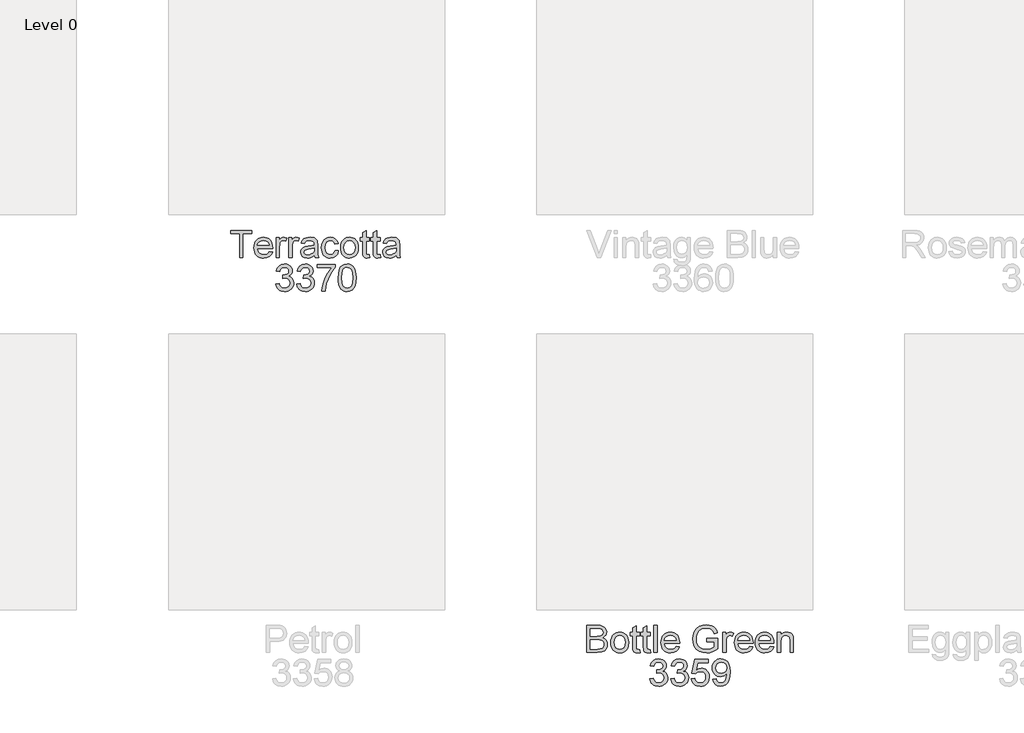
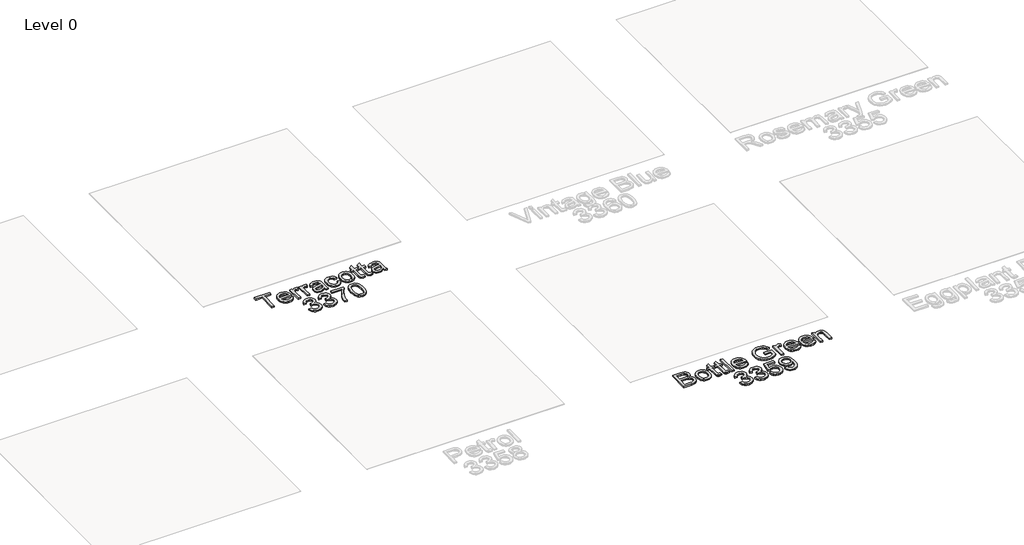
# One storey, part 3 of 6: 2 proxies.
"""IFC4 building model written with IfcOpenShell, lengths in millimetres."""

from ifc_helpers import new_model, si_unit, origin, origin_with_axes, place, context, project, spatial, polyline, outline, extrude, element, save

model = new_model("IFC4")

# Units and contexts
model_context = context("Model", 3, world=origin())
ifc_project = project(units=[si_unit("LENGTHUNIT", "METRE", prefix="MILLI")], contexts=[model_context])

# Site, building, storey
site = spatial("IfcSite", under=ifc_project)
building = spatial("IfcBuilding", under=site)
storey = spatial("IfcBuildingStorey", under=building, Name="Level 0", Elevation=0.0)

# Proxies
placement = place(None, origin())
element("IfcBuildingElementProxy", 1, Name="300mm Arial", ObjectType="300mm Arial", at=placement, inside=storey, context=model_context, shape_type="SweptSolid", body=[
    extrude(outline(polyline([(-680.806034, -2137.1730179), (-680.806034, -1878.7114794), (-777.729111, -1878.7114794), (-777.729111, -1841.7884025), (-546.9598802, -1841.7884025), (-546.9598802, -1878.7114794), (-643.8829571, -1878.7114794), (-643.8829571, -2137.1730179), (-680.806034, -2137.1730179)])), origin_with_axes(), (0.0, 0.0, 1.0), 20.0),
    extrude(outline(polyline([(-358.1618033, -2072.5576332), (-321.9598802, -2077.1730179), (-335.0037504, -2104.4506621), (-355.8180533, -2124.8412871), (-383.9340389, -2137.5516236), (-418.8829571, -2141.7884025), (-441.7931134, -2139.9607282), (-462.2062744, -2134.4777054), (-480.1224403, -2125.339334), (-495.541611, -2112.545614), (-507.9409499, -2096.4526152), (-516.7976206, -2077.4164073), (-522.111623, -2055.4369902), (-523.8829571, -2030.514364), (-522.0935941, -2004.7466356), (-516.7255052, -1982.0347967), (-507.7786903, -1962.3788472), (-495.2531494, -1945.7787871), (-479.8745437, -1932.5906861), (-462.368534, -1923.170614), (-442.7351206, -1917.5185707), (-420.9743033, -1915.6345563), (-399.9143574, -1917.5140635), (-380.869135, -1923.1525852), (-363.8386362, -1932.5501212), (-348.822861, -1945.7066717), (-336.5654992, -1962.2706741), (-327.8102408, -1981.8905659), (-322.5570857, -2004.5663472), (-320.806034, -2030.2980179), (-321.0223802, -2040.2499409), (-486.9598802, -2040.2499409), (-480.5686542, -2067.8881621), (-465.7218994, -2088.2066717), (-444.2946158, -2100.7006621), (-418.1618033, -2104.8653255), (-398.510361, -2102.936239), (-381.9598802, -2097.1489794), (-368.510361, -2087.1429698), (-358.1618033, -2072.5576332)]), holes=[polyline([(-486.9598802, -2003.326864), (-357.729111, -2003.326864), (-362.7231014, -1983.8196525), (-372.5127648, -1969.8653255), (-394.0392071, -1956.8845563), (-421.118534, -1952.5576332), (-446.0073562, -1956.0101573), (-466.587284, -1966.3677294), (-480.8931735, -1982.5125611), (-486.9598802, -2003.326864)])]), origin_with_axes(), (0.0, 0.0, 1.0), 20.0),
    extrude(outline(polyline([(-283.8829571, -2137.1730179), (-283.8829571, -1920.2499409), (-251.5752648, -1920.2499409), (-251.5752648, -1952.3412871), (-239.6401687, -1933.7355179), (-228.6425725, -1922.7739794), (-217.6089187, -1917.4194121), (-205.5656494, -1915.6345563), (-187.1762264, -1918.483114), (-168.4983417, -1927.0287871), (-180.8300725, -1960.1297486), (-193.8108417, -1954.4506621), (-206.791611, -1952.5576332), (-217.8162504, -1954.3785467), (-227.6690148, -1959.8412871), (-235.6287504, -1968.5311909), (-240.9743033, -1980.0335948), (-245.463486, -2000.6585948), (-246.9598802, -2023.1585948), (-246.9598802, -2137.1730179), (-283.8829571, -2137.1730179)])), origin_with_axes(), (0.0, 0.0, 1.0), 20.0),
    extrude(outline(polyline([(-145.4214187, -2137.1730179), (-145.4214187, -1920.2499409), (-113.1137264, -1920.2499409), (-113.1137264, -1952.3412871), (-101.1786302, -1933.7355179), (-90.181034, -1922.7739794), (-79.1473802, -1917.4194121), (-67.104111, -1915.6345563), (-48.7146879, -1918.483114), (-30.0368033, -1927.0287871), (-42.368534, -1960.1297486), (-55.3493033, -1954.4506621), (-68.3300725, -1952.5576332), (-79.3547119, -1954.3785467), (-89.2074764, -1959.8412871), (-97.1672119, -1968.5311909), (-102.5127648, -1980.0335948), (-107.0019475, -2000.6585948), (-108.4983417, -2023.1585948), (-108.4983417, -2137.1730179), (-145.4214187, -2137.1730179)])), origin_with_axes(), (0.0, 0.0, 1.0), 20.0),
    extrude(outline(polyline([(131.5016583, -2109.4807102), (113.8604323, -2124.6069121), (95.6963698, -2134.5047486), (76.5948073, -2139.967489), (56.1410813, -2141.7884025), (25.2847111, -2137.4073929), (2.5232929, -2124.264364), (-11.5121639, -2104.3064313), (-16.1906494, -2079.4807102), (-14.4238225, -2064.1742198), (-9.1233417, -2050.2739794), (-0.94726, -2038.3749409), (9.4463698, -2029.0720563), (35.2997352, -2016.9566717), (67.2468506, -2011.4037871), (104.9992544, -2005.5624409), (131.2853121, -1998.7114794), (131.5016583, -1990.4903255), (128.959591, -1974.0119602), (121.333389, -1963.2307102), (104.2781006, -1955.2259025), (80.5160813, -1952.5576332), (58.520889, -1954.3334746), (43.1603121, -1959.6609986), (32.6855525, -1969.513763), (25.3478121, -1984.8653255), (-11.5752648, -1980.2499409), (-5.16601, -1960.0576332), (4.3982929, -1944.1922486), (18.0100717, -1932.0588352), (36.5617544, -1923.0624409), (59.2510573, -1917.4915275), (85.2756967, -1915.6345563), (110.2366342, -1917.2751813), (130.0232929, -1922.1970563), (144.9421631, -1929.5978977), (155.2997352, -1938.6754217), (162.1687256, -1949.8983784), (166.6218506, -1963.7355179), (168.4247352, -1996.0432102), (168.4247352, -2041.9807102), (170.2997352, -2106.1273448), (177.6555044, -2137.1730179), (140.7324275, -2137.1730179), (131.5016583, -2109.4807102)]), holes=[polyline([(131.5016583, -2035.6345563), (71.9343506, -2046.9566717), (40.1675236, -2052.9422486), (25.7805044, -2062.6778255), (20.7324275, -2076.8845563), (23.4818265, -2087.8641236), (31.7300236, -2096.8605179), (45.2967304, -2102.8641236), (64.0016583, -2104.8653255), (83.833389, -2102.6567919), (101.3574275, -2096.0311909), (115.5641583, -2086.2685707), (125.443966, -2074.6489794), (129.8249756, -2062.6778255), (131.2853121, -2046.0912871), (131.5016583, -2035.6345563)])]), origin_with_axes(), (0.0, 0.0, 1.0), 20.0),
    extrude(outline(polyline([(357.6555044, -2058.7114794), (394.5785813, -2063.326864), (384.2841102, -2096.1664073), (364.9391583, -2120.983114), (338.364639, -2136.5870804), (306.381466, -2141.7884025), (285.6730825, -2139.9742498), (267.1056246, -2134.5317919), (250.6790922, -2125.4610287), (236.3934852, -2112.7619602), (224.830234, -2096.6734686), (216.5707688, -2077.4344361), (211.6150898, -2055.0448628), (209.9631967, -2029.5047486), (212.7847111, -1996.6471765), (221.2492544, -1968.170614), (235.4920429, -1945.1748207), (255.6482929, -1928.7595563), (279.7618746, -1918.9158063), (305.8766583, -1915.6345563), (337.0755765, -1920.1417679), (362.0184852, -1933.6634025), (379.912115, -1955.4783063), (389.9631967, -1984.8653255), (353.0401198, -1989.4807102), (346.3424035, -1973.3719361), (335.912716, -1961.8244602), (322.3279804, -1954.87434), (306.1651198, -1952.5576332), (282.3039419, -1957.1189313), (263.364639, -1970.8028255), (251.005865, -1994.3484986), (246.8862736, -2028.4951332), (250.9157208, -2063.1015034), (263.0040621, -2086.7283063), (281.6008169, -2100.3310707), (305.1555044, -2104.8653255), (324.2750958, -2102.0347967), (339.9511775, -2093.5432102), (351.3544227, -2079.1742198), (357.6555044, -2058.7114794)])), origin_with_axes(), (0.0, 0.0, 1.0), 20.0),
    extrude(outline(polyline([(417.6555044, -2028.7114794), (419.6521991, -2000.6180299), (425.6422833, -1976.4097967), (435.6257568, -1956.0867799), (449.6026198, -1939.6489794), (463.6741342, -1929.1426693), (479.2059852, -1921.6381621), (496.1981727, -1917.1354578), (514.6506967, -1915.6345563), (535.0210393, -1917.4622306), (553.4397592, -1922.9452534), (569.9068566, -1932.0836248), (584.4223313, -1944.8773448), (596.2695369, -1960.893721), (604.7318265, -1979.7000611), (609.8092003, -2001.2963652), (611.5016583, -2025.6826332), (608.5088698, -2062.9843159), (599.5305044, -2091.3797486), (584.8279804, -2112.6447727), (564.662716, -2128.5552294), (540.7113938, -2138.4801092), (514.6506967, -2141.7884025), (493.9828782, -2139.967489), (475.3928842, -2134.5047486), (458.8807148, -2125.4001813), (444.4463698, -2112.6537871), (432.7253662, -2096.4819121), (424.3532208, -2077.1009025), (419.3299335, -2054.5107582), (417.6555044, -2028.7114794)]), holes=[polyline([(454.5785813, -2028.639364), (458.8514179, -2062.0558304), (471.6699275, -2085.8629217), (490.9607929, -2100.1147246), (514.6506967, -2104.8653255), (538.2324275, -2100.0876813), (557.4872352, -2085.7547486), (570.3057448, -2061.6321525), (574.5785813, -2027.4855179), (570.2787015, -1995.0426092), (557.3790621, -1971.5600371), (538.0972111, -1957.3082342), (514.6506967, -1952.5576332), (490.9607929, -1957.2902054), (471.6699275, -1971.4879217), (458.8514179, -1995.2409265), (454.5785813, -2028.639364)])]), origin_with_axes(), (0.0, 0.0, 1.0), 20.0),
    extrude(outline(polyline([(731.5016583, -2106.3797486), (736.1170429, -2138.2547486), (708.4968506, -2141.7884025), (690.7744948, -2140.2559505), (677.5593506, -2135.6585948), (668.2204083, -2128.5732582), (662.1266583, -2119.576864), (658.7732929, -2104.1261429), (657.6555044, -2077.6778255), (657.6555044, -1957.1730179), (629.9631967, -1957.1730179), (629.9631967, -1920.2499409), (657.6555044, -1920.2499409), (657.6555044, -1867.5335948), (694.5785813, -1845.826864), (694.5785813, -1920.2499409), (731.5016583, -1920.2499409), (731.5016583, -1957.1730179), (694.5785813, -1957.1730179), (694.5785813, -2076.5960948), (696.5256967, -2095.6345563), (702.8357929, -2102.3773448), (715.4199275, -2104.8653255), (731.5016583, -2106.3797486)])), origin_with_axes(), (0.0, 0.0, 1.0), 20.0),
    extrude(outline(polyline([(846.8862736, -2106.3797486), (851.5016583, -2138.2547486), (823.881466, -2141.7884025), (806.1591102, -2140.2559505), (792.943966, -2135.6585948), (783.6050236, -2128.5732582), (777.5112736, -2119.576864), (774.1579083, -2104.1261429), (773.0401198, -2077.6778255), (773.0401198, -1957.1730179), (745.3478121, -1957.1730179), (745.3478121, -1920.2499409), (773.0401198, -1920.2499409), (773.0401198, -1867.5335948), (809.9631967, -1845.826864), (809.9631967, -1920.2499409), (846.8862736, -1920.2499409), (846.8862736, -1957.1730179), (809.9631967, -1957.1730179), (809.9631967, -2076.5960948), (811.9103121, -2095.6345563), (818.2204083, -2102.3773448), (830.8045429, -2104.8653255), (846.8862736, -2106.3797486)])), origin_with_axes(), (0.0, 0.0, 1.0), 20.0),
    extrude(outline(polyline([(1022.270889, -2109.4807102), (1004.6296631, -2124.6069121), (986.4656006, -2134.5047486), (967.3640381, -2139.967489), (946.9103121, -2141.7884025), (916.0539419, -2137.4073929), (893.2925236, -2124.264364), (879.2570669, -2104.3064313), (874.5785813, -2079.4807102), (876.3454083, -2064.1742198), (881.645889, -2050.2739794), (889.8219708, -2038.3749409), (900.2156006, -2029.0720563), (926.068966, -2016.9566717), (958.0160813, -2011.4037871), (995.7684852, -2005.5624409), (1022.0545429, -1998.7114794), (1022.270889, -1990.4903255), (1019.7288217, -1974.0119602), (1012.1026198, -1963.2307102), (995.0473313, -1955.2259025), (971.2853121, -1952.5576332), (949.2901198, -1954.3334746), (933.9295429, -1959.6609986), (923.4547833, -1969.513763), (916.1170429, -1984.8653255), (879.193966, -1980.2499409), (885.6032208, -1960.0576332), (895.1675236, -1944.1922486), (908.7793025, -1932.0588352), (927.3309852, -1923.0624409), (950.0202881, -1917.4915275), (976.0449275, -1915.6345563), (1001.005865, -1917.2751813), (1020.7925236, -1922.1970563), (1035.7113938, -1929.5978977), (1046.068966, -1938.6754217), (1052.9379563, -1949.8983784), (1057.3910813, -1963.7355179), (1059.193966, -1996.0432102), (1059.193966, -2041.9807102), (1061.068966, -2106.1273448), (1068.4247352, -2137.1730179), (1031.5016583, -2137.1730179), (1022.270889, -2109.4807102)]), holes=[polyline([(1022.270889, -2035.6345563), (962.7035813, -2046.9566717), (930.9367544, -2052.9422486), (916.5497352, -2062.6778255), (911.5016583, -2076.8845563), (914.2510573, -2087.8641236), (922.4992544, -2096.8605179), (936.0659611, -2102.8641236), (954.770889, -2104.8653255), (974.6026198, -2102.6567919), (992.1266583, -2096.0311909), (1006.333389, -2086.2685707), (1016.2131967, -2074.6489794), (1020.5942063, -2062.6778255), (1022.0545429, -2046.0912871), (1022.270889, -2035.6345563)])]), origin_with_axes(), (0.0, 0.0, 1.0), 20.0),
    extrude(outline(polyline([(-286.1906494, -2423.326864), (-249.2675725, -2418.7114794), (-241.0013465, -2441.9146044), (-228.8949764, -2457.5816717), (-212.35351, -2466.5059505), (-190.7819956, -2469.4807102), (-165.4694956, -2465.3881621), (-145.9262264, -2453.1105179), (-133.432236, -2434.7932102), (-129.2675725, -2412.5816717), (-133.3961783, -2391.4969361), (-145.7819956, -2374.3965755), (-164.5319956, -2363.0654457), (-187.7531494, -2359.2884025), (-213.6425725, -2363.326864), (-209.5319956, -2326.4037871), (-203.618534, -2326.8364794), (-181.4971398, -2324.186239), (-161.7194956, -2316.2355179), (-147.7651687, -2302.7859986), (-143.1137264, -2283.639364), (-146.4851206, -2267.6928496), (-156.5993033, -2254.7571525), (-172.0319956, -2246.1844361), (-191.3589187, -2243.326864), (-210.7218994, -2246.2114794), (-226.5512264, -2254.8653255), (-238.1077167, -2269.2884025), (-244.6521879, -2289.4807102), (-281.5752648, -2284.8653255), (-270.7038706, -2251.7102775), (-251.3589187, -2226.9566717), (-224.8925725, -2211.5420082), (-192.6569956, -2206.4037871), (-169.4448562, -2208.93684), (-148.1257456, -2216.5359986), (-130.150986, -2228.5251813), (-116.9718994, -2244.2283063), (-108.8859619, -2262.3202534), (-106.1906494, -2281.4759025), (-108.7507456, -2299.3244602), (-116.431034, -2315.514364), (-129.1233417, -2329.3064313), (-146.7194956, -2339.9614794), (-123.6065148, -2349.3004217), (-106.479111, -2365.201864), (-95.8781494, -2386.8004217), (-92.3444956, -2413.2307102), (-94.1113225, -2431.9626813), (-99.4118033, -2449.2162871), (-108.2459379, -2464.9915275), (-120.6137264, -2479.2884025), (-135.6813345, -2491.1513832), (-152.6149283, -2499.6249409), (-171.4145076, -2504.7090755), (-192.0800725, -2506.4037871), (-227.7771879, -2500.6165275), (-243.1377648, -2493.3824529), (-256.8396879, -2483.2547486), (-268.3285701, -2470.8283664), (-277.0500244, -2456.6982582), (-286.1906494, -2423.326864)])), origin_with_axes(), (0.0, 0.0, 1.0), 20.0),
    extrude(outline(polyline([(-60.0368033, -2423.326864), (-23.1137264, -2418.7114794), (-14.8475004, -2441.9146044), (-2.7411302, -2457.5816717), (13.8003361, -2466.5059505), (35.3718506, -2469.4807102), (60.6843506, -2465.3881621), (80.2276198, -2453.1105179), (92.7216102, -2434.7932102), (96.8862736, -2412.5816717), (92.7576679, -2391.4969361), (80.3718506, -2374.3965755), (61.6218506, -2363.0654457), (38.4006967, -2359.2884025), (12.5112736, -2363.326864), (16.6218506, -2326.4037871), (22.5353121, -2326.8364794), (44.6567063, -2324.186239), (64.4343506, -2316.2355179), (78.3886775, -2302.7859986), (83.0401198, -2283.639364), (79.6687256, -2267.6928496), (69.5545429, -2254.7571525), (54.1218506, -2246.1844361), (34.7949275, -2243.326864), (15.4319467, -2246.2114794), (-0.3973802, -2254.8653255), (-11.9538706, -2269.2884025), (-18.4983417, -2289.4807102), (-55.4214187, -2284.8653255), (-44.5500244, -2251.7102775), (-25.2050725, -2226.9566717), (1.2612736, -2211.5420082), (33.4968506, -2206.4037871), (56.70899, -2208.93684), (78.0281006, -2216.5359986), (96.0028602, -2228.5251813), (109.1819467, -2244.2283063), (117.2678842, -2262.3202534), (119.9631967, -2281.4759025), (117.4031006, -2299.3244602), (109.7228121, -2315.514364), (97.0305044, -2329.3064313), (79.4343506, -2339.9614794), (102.5473313, -2349.3004217), (119.6747352, -2365.201864), (130.2756967, -2386.8004217), (133.8093506, -2413.2307102), (132.0425236, -2431.9626813), (126.7420429, -2449.2162871), (117.9079083, -2464.9915275), (105.5401198, -2479.2884025), (90.4725116, -2491.1513832), (73.5389179, -2499.6249409), (54.7393386, -2504.7090755), (34.0737736, -2506.4037871), (-1.6233417, -2500.6165275), (-16.9839187, -2493.3824529), (-30.6858417, -2483.2547486), (-42.1747239, -2470.8283664), (-50.8961783, -2456.6982582), (-60.0368033, -2423.326864)])), origin_with_axes(), (0.0, 0.0, 1.0), 20.0),
    extrude(outline(polyline([(166.1170429, -2247.9422486), (166.1170429, -2211.0191717), (359.9631967, -2211.0191717), (359.9631967, -2240.8749409), (332.33399, -2275.841888), (304.975216, -2320.3100371), (280.8436054, -2370.2228977), (262.895889, -2421.5239794), (254.0978121, -2459.9073929), (249.193966, -2501.7884025), (212.270889, -2501.7884025), (216.2642785, -2463.7295082), (226.9463698, -2418.4951332), (244.0287015, -2370.5474169), (267.2228121, -2324.3484986), (294.302139, -2282.5846765), (323.0401198, -2247.9422486), (166.1170429, -2247.9422486)])), origin_with_axes(), (0.0, 0.0, 1.0), 20.0),
    extrude(outline(polyline([(392.270889, -2356.4759025), (394.9842304, -2309.1952534), (403.1242544, -2271.4879217), (416.6098313, -2242.7769842), (435.3598313, -2222.4855179), (459.5094708, -2210.4242198), (489.193966, -2206.4037871), (511.9463698, -2208.7835948), (532.318966, -2215.9230179), (549.3562256, -2227.5426092), (562.1026198, -2243.3629217), (571.7300236, -2263.248739), (579.4103121, -2287.0648448), (584.4403602, -2317.3082342), (586.1170429, -2356.4759025), (583.4307448, -2403.4861188), (575.3718506, -2441.1033063), (561.9674035, -2469.8412871), (543.2444467, -2490.2138832), (519.0407208, -2502.3563111), (489.193966, -2506.4037871), (468.8574275, -2504.6459746), (450.8285813, -2499.3725371), (435.1074275, -2490.5834746), (421.693966, -2478.2787871), (408.8213698, -2456.0356981), (399.6266583, -2428.3208544), (394.1098313, -2395.1342558), (392.270889, -2356.4759025)]), holes=[polyline([(429.193966, -2356.4037871), (433.520889, -2414.483715), (438.9295429, -2434.3492498), (446.5016583, -2448.0984986), (465.8285813, -2464.1351573), (489.193966, -2469.4807102), (512.5593506, -2464.1171284), (531.8862736, -2448.0263832), (539.458389, -2434.2545984), (544.8670429, -2414.3935707), (549.193966, -2356.4037871), (545.0112736, -2299.6309505), (539.7829083, -2279.8307703), (532.4631967, -2265.7547486), (513.1723313, -2248.9338352), (488.7612736, -2243.326864), (465.6482929, -2248.2667679), (447.0785813, -2263.0864794), (439.2540621, -2278.4109986), (433.6651198, -2299.0720563), (429.193966, -2356.4037871)])]), origin_with_axes(), (0.0, 0.0, 1.0), 20.0),
])
element("IfcBuildingElementProxy", 2, Name="300mm Arial", ObjectType="300mm Arial", at=placement, inside=storey, context=model_context, shape_type="SweptSolid", body=[
    extrude(outline(polyline([(3095.2206244, -6431.0059242), (3095.2206244, -6135.6213089), (3207.9369706, -6135.6213089), (3238.9375715, -6137.7937848), (3263.1412975, -6144.3112127), (3281.6929802, -6155.3358521), (3295.7374513, -6171.0299627), (3304.5806004, -6189.4915012), (3307.5283167, -6208.8184242), (3305.0493504, -6226.603881), (3297.6124513, -6243.3256358), (3285.1635331, -6257.9560444), (3267.648509, -6269.4674627), (3288.570985, -6280.3929435), (3304.0307206, -6297.0155396), (3313.5769946, -6318.2354916), (3316.7590859, -6342.9530396), (3314.58661, -6363.5509964), (3308.0691821, -6382.6525589), (3298.3426196, -6398.8965492), (3286.5427398, -6410.9217896), (3272.0926196, -6419.6297223), (3254.4153359, -6425.9217896), (3207.0715859, -6431.0059242), (3095.2206244, -6431.0059242)]), holes=[polyline([(3132.1437013, -6394.0828473), (3207.8648552, -6394.0828473), (3235.2687013, -6392.6405396), (3258.4537975, -6384.5996742), (3273.8143744, -6368.1934242), (3278.3306004, -6356.6008762), (3279.836009, -6343.3136166), (3278.0691821, -6327.8809242), (3272.7687013, -6314.6116935), (3263.5108888, -6304.2360925), (3249.8720667, -6297.4842896), (3230.5541581, -6293.7793617), (3204.2590859, -6292.5443858), (3132.1437013, -6292.5443858), (3132.1437013, -6394.0828473)]), polyline([(3132.1437013, -6255.6213089), (3199.5715859, -6255.6213089), (3238.9465859, -6252.4482319), (3252.7296388, -6246.9764771), (3262.6364898, -6238.7823666), (3268.6130523, -6227.9921021), (3270.6052398, -6214.7318858), (3268.7482686, -6201.8592896), (3263.1773552, -6190.6453473), (3254.1449032, -6181.8923425), (3241.9033167, -6176.4025589), (3194.4513936, -6172.5443858), (3132.1437013, -6172.5443858), (3132.1437013, -6255.6213089)])]), origin_with_axes(), (0.0, 0.0, 1.0), 20.0),
    extrude(outline(polyline([(3353.6821629, -6322.5443858), (3355.6788576, -6294.4509363), (3361.6689417, -6270.2427031), (3371.6524153, -6249.9196863), (3385.6292782, -6233.4818858), (3399.7007927, -6222.9755757), (3415.2326436, -6215.4710685), (3432.2248311, -6210.9683642), (3450.6773552, -6209.4674627), (3471.0476977, -6211.295137), (3489.4664177, -6216.7781598), (3505.933515, -6225.9165312), (3520.4489898, -6238.7102512), (3532.2961953, -6254.7266274), (3540.758485, -6273.5329675), (3545.8358588, -6295.1292716), (3547.5283167, -6319.5155396), (3544.5355282, -6356.8172223), (3535.5571629, -6385.212655), (3520.8546388, -6406.4776791), (3500.6893744, -6422.3881358), (3476.7380523, -6432.3130156), (3450.6773552, -6435.6213089), (3430.0095367, -6433.8003954), (3411.4195427, -6428.337655), (3394.9073732, -6419.2330877), (3380.4730282, -6406.4866935), (3368.7520246, -6390.3148185), (3360.3798792, -6370.9338089), (3355.3565919, -6348.3436646), (3353.6821629, -6322.5443858)]), holes=[polyline([(3390.6052398, -6322.4722704), (3394.8780763, -6355.8887367), (3407.6965859, -6379.6958281), (3426.9874513, -6393.947631), (3450.6773552, -6398.6982319), (3474.2590859, -6393.9205877), (3493.5138936, -6379.587655), (3506.3324032, -6355.4650589), (3510.6052398, -6321.3184242), (3506.30536, -6288.8755156), (3493.4057206, -6265.3929435), (3474.1238696, -6251.1411406), (3450.6773552, -6246.3905396), (3426.9874513, -6251.1231117), (3407.6965859, -6265.3208281), (3394.8780763, -6289.0738329), (3390.6052398, -6322.4722704)])]), origin_with_axes(), (0.0, 0.0, 1.0), 20.0),
    extrude(outline(polyline([(3667.5283167, -6400.212655), (3672.1437013, -6432.087655), (3644.523509, -6435.6213089), (3626.8011532, -6434.0888569), (3613.586009, -6429.4915012), (3604.2470667, -6422.4061646), (3598.1533167, -6413.4097704), (3594.7999513, -6397.9590492), (3593.6821629, -6371.5107319), (3593.6821629, -6251.0059242), (3565.9898552, -6251.0059242), (3565.9898552, -6214.0828473), (3593.6821629, -6214.0828473), (3593.6821629, -6161.3665012), (3630.6052398, -6139.6597704), (3630.6052398, -6214.0828473), (3667.5283167, -6214.0828473), (3667.5283167, -6251.0059242), (3630.6052398, -6251.0059242), (3630.6052398, -6370.4290012), (3632.5523552, -6389.4674627), (3638.8624513, -6396.2102512), (3651.4465859, -6398.6982319), (3667.5283167, -6400.212655)])), origin_with_axes(), (0.0, 0.0, 1.0), 20.0),
    extrude(outline(polyline([(3782.9129321, -6400.212655), (3787.5283167, -6432.087655), (3759.9081244, -6435.6213089), (3742.1857686, -6434.0888569), (3728.9706244, -6429.4915012), (3719.6316821, -6422.4061646), (3713.5379321, -6413.4097704), (3710.1845667, -6397.9590492), (3709.0667782, -6371.5107319), (3709.0667782, -6251.0059242), (3681.3744706, -6251.0059242), (3681.3744706, -6214.0828473), (3709.0667782, -6214.0828473), (3709.0667782, -6161.3665012), (3745.9898552, -6139.6597704), (3745.9898552, -6214.0828473), (3782.9129321, -6214.0828473), (3782.9129321, -6251.0059242), (3745.9898552, -6251.0059242), (3745.9898552, -6370.4290012), (3747.9369706, -6389.4674627), (3754.2470667, -6396.2102512), (3766.8312013, -6398.6982319), (3782.9129321, -6400.212655)])), origin_with_axes(), (0.0, 0.0, 1.0), 20.0),
    extrude(outline(polyline([(3819.836009, -6431.0059242), (3819.836009, -6135.6213089), (3856.7590859, -6135.6213089), (3856.7590859, -6431.0059242), (3819.836009, -6431.0059242)])), origin_with_axes(), (0.0, 0.0, 1.0), 20.0),
    extrude(outline(polyline([(4064.0187013, -6366.3905396), (4100.2206244, -6371.0059242), (4087.1767542, -6398.2835685), (4066.3624513, -6418.6741935), (4038.2464657, -6431.38453), (4003.2975475, -6435.6213089), (3980.3873912, -6433.7936346), (3959.9742302, -6428.3106117), (3942.0580643, -6419.1722404), (3926.6388936, -6406.3785204), (3914.2395547, -6390.2855216), (3905.382884, -6371.2493137), (3900.0688816, -6349.2698966), (3898.2975475, -6324.3472704), (3900.0869105, -6298.579542), (3905.4549994, -6275.8677031), (3914.4018143, -6256.2117536), (3926.9273552, -6239.6116935), (3942.3059609, -6226.4235925), (3959.8119706, -6217.0035204), (3979.445384, -6211.3514771), (4001.2062013, -6209.4674627), (4022.2661472, -6211.3469699), (4041.3113696, -6216.9854916), (4058.3418684, -6226.3830276), (4073.3576436, -6239.5395781), (4085.6150054, -6256.1035805), (4094.3702638, -6275.7234723), (4099.6234189, -6298.3992536), (4101.3744706, -6324.1309242), (4101.1581244, -6334.0828473), (3935.2206244, -6334.0828473), (3941.6118504, -6361.7210685), (3956.4586052, -6382.0395781), (3977.8858888, -6394.5335685), (4004.0187013, -6398.6982319), (4023.6701436, -6396.7691454), (4040.2206244, -6390.9818858), (4053.6701436, -6380.9758762), (4064.0187013, -6366.3905396)]), holes=[polyline([(3935.2206244, -6297.1597704), (4064.4513936, -6297.1597704), (4059.4574032, -6277.6525589), (4049.6677398, -6263.6982319), (4028.1412975, -6250.7174627), (4001.0619706, -6246.3905396), (3976.1731484, -6249.8430637), (3955.5932206, -6260.2006358), (3941.2873311, -6276.3454675), (3935.2206244, -6297.1597704)])]), origin_with_axes(), (0.0, 0.0, 1.0), 20.0),
    extrude(outline(polyline([(4396.7590859, -6315.6213089), (4396.7590859, -6278.6982319), (4516.7590859, -6278.6982319), (4516.7590859, -6389.1068858), (4487.5974273, -6409.3893377), (4457.5162975, -6423.9386166), (4426.5878119, -6432.7006358), (4394.8840859, -6435.6213089), (4353.4628119, -6430.978881), (4316.0259129, -6417.0515973), (4284.9261532, -6394.3262367), (4262.5162975, -6363.2895781), (4248.9676196, -6326.0600108), (4244.4513936, -6284.7559242), (4248.9495907, -6243.1543617), (4262.4441821, -6204.4554435), (4284.3762734, -6171.994506), (4314.1869706, -6149.1068858), (4350.4970667, -6135.5311646), (4391.9273552, -6131.0059242), (4422.3420186, -6133.6291214), (4449.6917782, -6141.4987127), (4472.7236292, -6154.0467896), (4490.1845667, -6170.7054435), (4503.102235, -6192.2769579), (4512.5042782, -6219.5636166), (4478.4658167, -6229.1549627), (4470.8666581, -6209.6928233), (4461.6268744, -6195.0083281), (4449.4033167, -6183.9386166), (4432.8528359, -6175.3208281), (4413.1202638, -6169.7769579), (4391.3504321, -6167.9290012), (4365.8666581, -6169.9211887), (4344.0787975, -6175.8977512), (4326.0679802, -6185.1104916), (4311.9153359, -6196.8112127), (4292.9129321, -6225.2607319), (4284.2590859, -6253.1333281), (4281.3744706, -6283.2415012), (4284.8450234, -6318.5509964), (4295.2566821, -6347.6044819), (4312.2939417, -6370.1946262), (4335.6412975, -6386.1140973), (4362.9640138, -6395.5521983), (4391.9273552, -6398.6982319), (4417.5012734, -6396.3274387), (4442.4441821, -6389.2150589), (4464.1058407, -6379.416381), (4479.836009, -6368.9866935), (4479.836009, -6315.6213089), (4396.7590859, -6315.6213089)])), origin_with_axes(), (0.0, 0.0, 1.0), 20.0),
    extrude(outline(polyline([(4572.1437013, -6431.0059242), (4572.1437013, -6214.0828473), (4604.4513936, -6214.0828473), (4604.4513936, -6246.1741935), (4616.3864898, -6227.5684242), (4627.3840859, -6216.6068858), (4638.4177398, -6211.2523185), (4650.461009, -6209.4674627), (4668.8504321, -6212.3160204), (4687.5283167, -6220.8616935), (4675.1965859, -6253.962655), (4662.2158167, -6248.2835685), (4649.2350475, -6246.3905396), (4638.2104081, -6248.2114531), (4628.3576436, -6253.6741935), (4620.3979081, -6262.3640973), (4615.0523552, -6273.8665012), (4610.5631725, -6294.4915012), (4609.0667782, -6316.9915012), (4609.0667782, -6431.0059242), (4572.1437013, -6431.0059242)])), origin_with_axes(), (0.0, 0.0, 1.0), 20.0),
    extrude(outline(polyline([(4862.4802398, -6366.3905396), (4898.6821629, -6371.0059242), (4885.6382927, -6398.2835685), (4864.8239898, -6418.6741935), (4836.7080042, -6431.38453), (4801.7590859, -6435.6213089), (4778.8489297, -6433.7936346), (4758.4357686, -6428.3106117), (4740.5196028, -6419.1722404), (4725.1004321, -6406.3785204), (4712.7010932, -6390.2855216), (4703.8444225, -6371.2493137), (4698.5304201, -6349.2698966), (4696.7590859, -6324.3472704), (4698.5484489, -6298.579542), (4703.9165379, -6275.8677031), (4712.8633528, -6256.2117536), (4725.3888936, -6239.6116935), (4740.7674994, -6226.4235925), (4758.273509, -6217.0035204), (4777.9069225, -6211.3514771), (4799.6677398, -6209.4674627), (4820.7276857, -6211.3469699), (4839.7729081, -6216.9854916), (4856.8034069, -6226.3830276), (4871.8191821, -6239.5395781), (4884.0765439, -6256.1035805), (4892.8318023, -6275.7234723), (4898.0849573, -6298.3992536), (4899.836009, -6324.1309242), (4899.6196629, -6334.0828473), (4733.6821629, -6334.0828473), (4740.0733888, -6361.7210685), (4754.9201436, -6382.0395781), (4776.3474273, -6394.5335685), (4802.4802398, -6398.6982319), (4822.1316821, -6396.7691454), (4838.6821629, -6390.9818858), (4852.1316821, -6380.9758762), (4862.4802398, -6366.3905396)]), holes=[polyline([(4733.6821629, -6297.1597704), (4862.9129321, -6297.1597704), (4857.9189417, -6277.6525589), (4848.1292782, -6263.6982319), (4826.6028359, -6250.7174627), (4799.523509, -6246.3905396), (4774.6346869, -6249.8430637), (4754.054759, -6260.2006358), (4739.7488696, -6276.3454675), (4733.6821629, -6297.1597704)])]), origin_with_axes(), (0.0, 0.0, 1.0), 20.0),
    extrude(outline(polyline([(5088.6340859, -6366.3905396), (5124.836009, -6371.0059242), (5111.7921388, -6398.2835685), (5090.9778359, -6418.6741935), (5062.8618504, -6431.38453), (5027.9129321, -6435.6213089), (5005.0027758, -6433.7936346), (4984.5896148, -6428.3106117), (4966.6734489, -6419.1722404), (4951.2542782, -6406.3785204), (4938.8549393, -6390.2855216), (4929.9982686, -6371.2493137), (4924.6842662, -6349.2698966), (4922.9129321, -6324.3472704), (4924.7022951, -6298.579542), (4930.070384, -6275.8677031), (4939.0171989, -6256.2117536), (4951.5427398, -6239.6116935), (4966.9213456, -6226.4235925), (4984.4273552, -6217.0035204), (5004.0607686, -6211.3514771), (5025.8215859, -6209.4674627), (5046.8815319, -6211.3469699), (5065.9267542, -6216.9854916), (5082.957253, -6226.3830276), (5097.9730282, -6239.5395781), (5110.23039, -6256.1035805), (5118.9856484, -6275.7234723), (5124.2388035, -6298.3992536), (5125.9898552, -6324.1309242), (5125.773509, -6334.0828473), (4959.836009, -6334.0828473), (4966.227235, -6361.7210685), (4981.0739898, -6382.0395781), (5002.5012734, -6394.5335685), (5028.6340859, -6398.6982319), (5048.2855282, -6396.7691454), (5064.836009, -6390.9818858), (5078.2855282, -6380.9758762), (5088.6340859, -6366.3905396)]), holes=[polyline([(4959.836009, -6297.1597704), (5089.0667782, -6297.1597704), (5084.0727879, -6277.6525589), (5074.2831244, -6263.6982319), (5052.7566821, -6250.7174627), (5025.6773552, -6246.3905396), (5000.7885331, -6249.8430637), (4980.2086052, -6260.2006358), (4965.9027157, -6276.3454675), (4959.836009, -6297.1597704)])]), origin_with_axes(), (0.0, 0.0, 1.0), 20.0),
    extrude(outline(polyline([(5162.9129321, -6431.0059242), (5162.9129321, -6214.0828473), (5199.836009, -6214.0828473), (5199.836009, -6244.3713089), (5212.6635331, -6229.1008762), (5228.0691821, -6218.1934242), (5246.0529561, -6211.6489531), (5266.6148552, -6209.4674627), (5284.8149754, -6211.2252752), (5301.4826436, -6216.4987127), (5315.382884, -6224.6297223), (5325.2807206, -6234.9602512), (5336.3504321, -6262.1116935), (5338.2975475, -6297.8088089), (5338.2975475, -6431.0059242), (5301.3744706, -6431.0059242), (5301.3744706, -6302.7847704), (5297.1196629, -6270.1165012), (5291.2332446, -6260.3899387), (5282.0836052, -6252.8448666), (5270.3558407, -6248.0041214), (5256.7350475, -6246.3905396), (5235.1094465, -6250.0143377), (5216.6749513, -6260.8857319), (5209.3079141, -6269.7604315), (5204.0457446, -6281.8893377), (5199.836009, -6315.9097704), (5199.836009, -6431.0059242), (5162.9129321, -6431.0059242)])), origin_with_axes(), (0.0, 0.0, 1.0), 20.0),
    extrude(outline(polyline([(3778.2975475, -6717.1597704), (3815.2206244, -6712.5443858), (3823.4868504, -6735.7475108), (3835.5932206, -6751.4145781), (3852.1346869, -6760.3388569), (3873.7062013, -6763.3136166), (3899.0187013, -6759.2210685), (3918.5619706, -6746.9434242), (3931.0559609, -6728.6261166), (3935.2206244, -6706.4145781), (3931.0920186, -6685.3298425), (3918.7062013, -6668.2294819), (3899.9562013, -6656.8983521), (3876.7350475, -6653.1213089), (3850.8456244, -6657.1597704), (3854.9562013, -6620.2366935), (3860.8696629, -6620.6693858), (3882.9910571, -6618.0191454), (3902.7687013, -6610.0684242), (3916.7230282, -6596.618905), (3921.3744706, -6577.4722704), (3918.0030763, -6561.525756), (3907.8888936, -6548.5900589), (3892.4562013, -6540.0173425), (3873.1292782, -6537.1597704), (3853.7662975, -6540.0443858), (3837.9369706, -6548.6982319), (3826.3804802, -6563.1213089), (3819.836009, -6583.3136166), (3782.9129321, -6578.6982319), (3793.7843263, -6545.5431839), (3813.1292782, -6520.7895781), (3839.5956244, -6505.3749146), (3871.8312013, -6500.2366935), (3895.0433407, -6502.7697464), (3916.3624513, -6510.368905), (3934.3372109, -6522.3580877), (3947.5162975, -6538.0612127), (3955.602235, -6556.1531598), (3958.2975475, -6575.3088089), (3955.7374513, -6593.1573666), (3948.0571629, -6609.3472704), (3935.3648552, -6623.1393377), (3917.7687013, -6633.7943858), (3940.8816821, -6643.1333281), (3958.0090859, -6659.0347704), (3968.6100475, -6680.6333281), (3972.1437013, -6707.0636166), (3970.3768744, -6725.7955877), (3965.0763936, -6743.0491935), (3956.242259, -6758.8244339), (3943.8744706, -6773.1213089), (3928.8068624, -6784.9842896), (3911.8732686, -6793.4578473), (3893.0736893, -6798.5419819), (3872.4081244, -6800.2366935), (3836.711009, -6794.4494339), (3821.3504321, -6787.2153593), (3807.648509, -6777.087655), (3796.1596268, -6764.6612728), (3787.4381725, -6750.5311646), (3778.2975475, -6717.1597704)])), origin_with_axes(), (0.0, 0.0, 1.0), 20.0),
    extrude(outline(polyline([(4004.4513936, -6717.1597704), (4041.3744706, -6712.5443858), (4049.6406965, -6735.7475108), (4061.7470667, -6751.4145781), (4078.2885331, -6760.3388569), (4099.8600475, -6763.3136166), (4125.1725475, -6759.2210685), (4144.7158167, -6746.9434242), (4157.2098071, -6728.6261166), (4161.3744706, -6706.4145781), (4157.2458648, -6685.3298425), (4144.8600475, -6668.2294819), (4126.1100475, -6656.8983521), (4102.8888936, -6653.1213089), (4076.9994706, -6657.1597704), (4081.1100475, -6620.2366935), (4087.023509, -6620.6693858), (4109.1449032, -6618.0191454), (4128.9225475, -6610.0684242), (4142.8768744, -6596.618905), (4147.5283167, -6577.4722704), (4144.1569225, -6561.525756), (4134.0427398, -6548.5900589), (4118.6100475, -6540.0173425), (4099.2831244, -6537.1597704), (4079.9201436, -6540.0443858), (4064.0908167, -6548.6982319), (4052.5343263, -6563.1213089), (4045.9898552, -6583.3136166), (4009.0667782, -6578.6982319), (4019.9381725, -6545.5431839), (4039.2831244, -6520.7895781), (4065.7494706, -6505.3749146), (4097.9850475, -6500.2366935), (4121.1971869, -6502.7697464), (4142.5162975, -6510.368905), (4160.4910571, -6522.3580877), (4173.6701436, -6538.0612127), (4181.7560811, -6556.1531598), (4184.4513936, -6575.3088089), (4181.8912975, -6593.1573666), (4174.211009, -6609.3472704), (4161.5187013, -6623.1393377), (4143.9225475, -6633.7943858), (4167.0355282, -6643.1333281), (4184.1629321, -6659.0347704), (4194.7638936, -6680.6333281), (4198.2975475, -6707.0636166), (4196.5307206, -6725.7955877), (4191.2302398, -6743.0491935), (4182.3961052, -6758.8244339), (4170.0283167, -6773.1213089), (4154.9607085, -6784.9842896), (4138.0271148, -6793.4578473), (4119.2275355, -6798.5419819), (4098.5619706, -6800.2366935), (4062.8648552, -6794.4494339), (4047.5042782, -6787.2153593), (4033.8023552, -6777.087655), (4022.313473, -6764.6612728), (4013.5920186, -6750.5311646), (4004.4513936, -6717.1597704)])), origin_with_axes(), (0.0, 0.0, 1.0), 20.0),
    extrude(outline(polyline([(4230.6052398, -6717.1597704), (4267.5283167, -6712.5443858), (4274.3071629, -6734.7108521), (4286.1340859, -6750.5852512), (4302.9549994, -6760.1315252), (4324.7158167, -6763.3136166), (4351.1821629, -6758.8875348), (4371.0138936, -6745.6092896), (4383.3997109, -6725.0113329), (4387.5283167, -6698.6261166), (4383.6611292, -6673.7823666), (4372.0595667, -6654.7799627), (4352.633485, -6642.7186646), (4325.2927398, -6638.6982319), (4307.3810811, -6640.3027992), (4292.8768744, -6645.1165012), (4272.1437013, -6661.775155), (4235.2206244, -6657.1597704), (4267.5283167, -6504.8520781), (4410.6052398, -6504.8520781), (4410.6052398, -6541.775155), (4297.3840859, -6541.775155), (4281.5908167, -6623.1213089), (4307.9670186, -6607.1116935), (4335.6052398, -6601.775155), (4353.5867602, -6603.4293017), (4370.1034369, -6608.3917416), (4385.1552698, -6616.6624747), (4398.742259, -6628.2415012), (4409.9900054, -6642.4211887), (4418.02411, -6658.493905), (4422.8445727, -6676.4596502), (4424.4513936, -6696.3184242), (4418.664134, -6733.2415012), (4411.4300595, -6749.7018377), (4401.3023552, -6764.8280396), (4385.9598071, -6780.3193257), (4368.0571629, -6791.38453), (4347.5944225, -6798.0236526), (4324.5715859, -6800.2366935), (4288.3065619, -6794.5485925), (4272.9392242, -6787.4384663), (4259.4153359, -6777.4842896), (4248.1630823, -6765.1818557), (4239.6106484, -6751.0269579), (4230.6052398, -6717.1597704)])), origin_with_axes(), (0.0, 0.0, 1.0), 20.0),
    extrude(outline(polyline([(4461.3744706, -6721.775155), (4498.2975475, -6717.1597704), (4504.6076436, -6738.1183041), (4514.8840859, -6752.3881358), (4528.8744706, -6760.5822464), (4546.3263936, -6763.3136166), (4561.9844465, -6761.5558041), (4576.2182206, -6756.2823666), (4588.0451436, -6748.0702271), (4596.4826436, -6737.4963089), (4608.5619706, -6705.4049627), (4613.898509, -6662.5684242), (4613.6821629, -6655.3568858), (4600.8906965, -6670.9698666), (4584.1509129, -6683.337655), (4564.6707446, -6691.3965492), (4543.6581244, -6694.0828473), (4526.1183107, -6692.4422223), (4509.9892542, -6687.5203473), (4495.2709549, -6679.3172223), (4481.9634129, -6667.8328473), (4470.9365198, -6653.6666815), (4463.0601677, -6637.4181839), (4458.3343564, -6619.0873545), (4456.7590859, -6598.6741935), (4458.410979, -6577.5804435), (4463.3666581, -6558.650155), (4471.6261232, -6541.8833281), (4483.1893744, -6527.2799627), (4497.2406064, -6515.4485324), (4512.9640138, -6506.9975108), (4530.3595968, -6501.9268978), (4549.4273552, -6500.2366935), (4576.9664177, -6504.0948666), (4602.0355282, -6515.6693858), (4623.0030763, -6534.3833281), (4638.2374513, -6559.6597704), (4647.5132927, -6594.5996742), (4650.6052398, -6642.3040012), (4647.5223071, -6692.8839291), (4638.273509, -6731.9794819), (4622.9399754, -6761.3574867), (4601.6028359, -6782.7847704), (4575.1815619, -6795.8737127), (4544.5956244, -6800.2366935), (4513.0271148, -6795.0894579), (4487.8408167, -6779.6477512), (4470.226634, -6754.885131), (4461.3744706, -6721.775155)]), holes=[polyline([(4613.6821629, -6597.8088089), (4609.6977879, -6572.7847704), (4597.7446629, -6553.5299627), (4579.1929802, -6541.2523185), (4555.4129321, -6537.1597704), (4530.7494706, -6541.5678233), (4510.9898552, -6554.7919819), (4498.0090859, -6575.0293617), (4493.6821629, -6600.4770781), (4497.7747109, -6623.2925829), (4510.0523552, -6641.4025589), (4529.3251917, -6653.2204675), (4554.4033167, -6657.1597704), (4577.9940619, -6653.2204675), (4596.9874513, -6641.4025589), (4609.508485, -6622.6255156), (4613.6821629, -6597.8088089)])]), origin_with_axes(), (0.0, 0.0, 1.0), 20.0),
])

save(model, "model.ifc")
